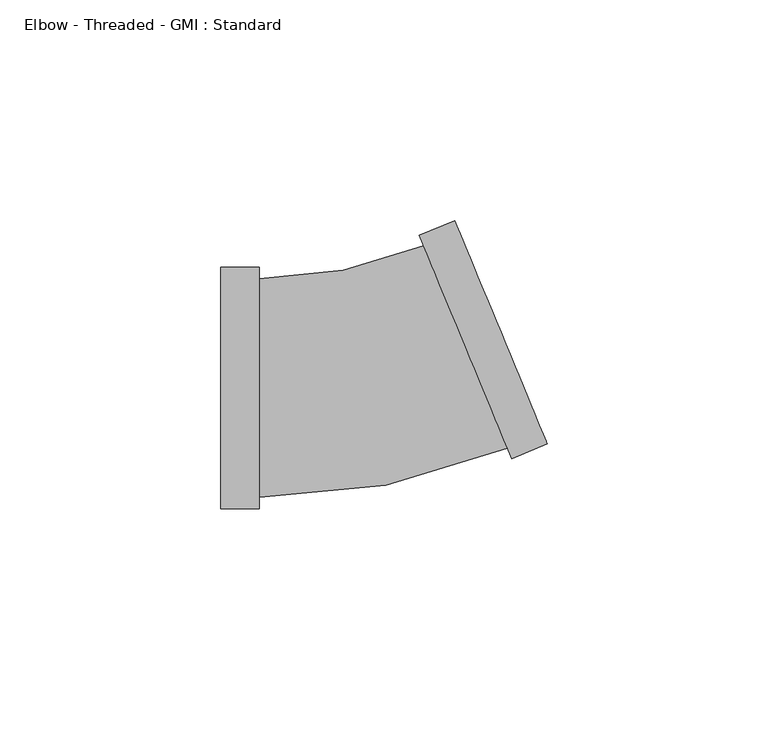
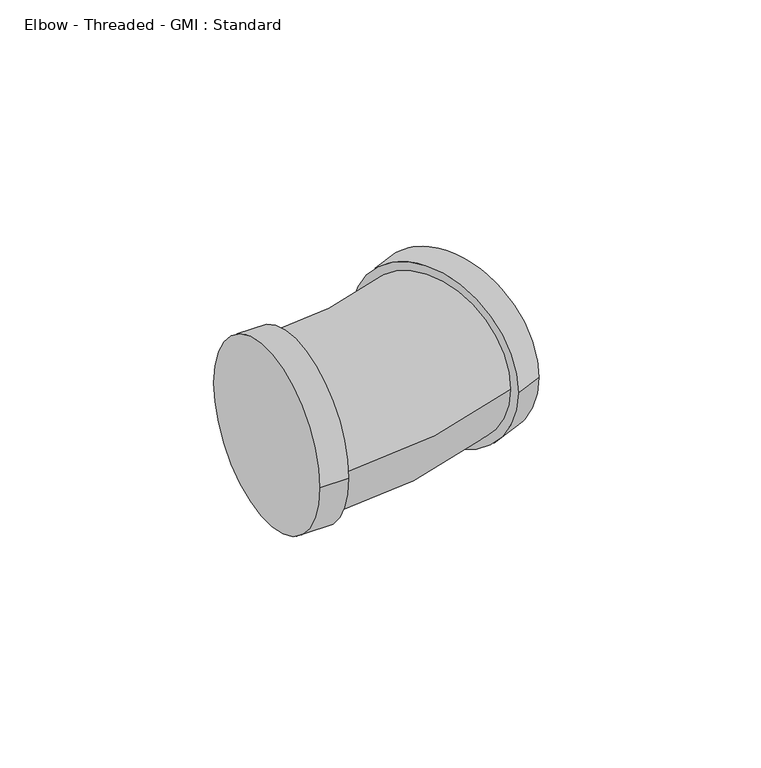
"""IFC4 building model written with IfcOpenShell, lengths in millimetres: pipe fitting geometry, Elbow - Threaded - GMI : Standard."""

import ifcopenshell
import ifcopenshell.guid

model = None  # the IFC model being written
_history = None  # IfcOwnerHistory: only IFC2X3 demands one
_inside = {}  # id of a spatial element -> (the spatial element, [elements in it])
_under = {}  # id of a project, library or spatial element -> (it, [spatial elements below it])
_declared = {}  # id of a project -> (the project, [libraries it declares])
_typed = {}  # id of a type object -> (the type object, [elements of that type])
_made_of = {}  # id of a material, layer set ... -> (it, [elements and type objects made of it])


def new_model(schema):
    """Start an empty IFC model of exactly this schema.

    Asked for "IFC4X3", IfcOpenShell would pick the latest addendum, in which some entities
    have other attributes; the version numbers below select the first issue.
    IFC2X3 requires an IfcOwnerHistory on every rooted entity: one is made here for all.
    """
    global model, _history
    if schema == "IFC4X3":
        model = ifcopenshell.file(schema_version=(4, 3, 0, 0))
    else:
        model = ifcopenshell.file(schema=schema)
    _inside.clear()
    _under.clear()
    _declared.clear()
    _typed.clear()
    _made_of.clear()
    _history = None
    if model.schema == "IFC2X3":
        org = make("IfcOrganization", Name="unknown")
        user = make(
            "IfcPersonAndOrganization",
            ThePerson=make("IfcPerson", FamilyName="unknown"),
            TheOrganization=org,
        )
        app = make(
            "IfcApplication",
            ApplicationDeveloper=org,
            Version="unknown",
            ApplicationFullName="unknown",
            ApplicationIdentifier="unknown",
        )
        _history = make(
            "IfcOwnerHistory",
            OwningUser=user,
            OwningApplication=app,
            ChangeAction="ADDED",
            CreationDate=0,
        )
    return model


def make(cls, **values):
    """One entity of the class cls with the attributes given. An attribute that is None is left unset."""
    return model.create_entity(
        cls, **{name: value for name, value in values.items() if value is not None}
    )


def rooted(cls, **values):
    """An entity with a GlobalId (a new one), such as an element, a storey or a relation."""
    return make(cls, GlobalId=ifcopenshell.guid.new(), OwnerHistory=_history, **values)


def si_unit(unit_type, name, prefix=None):
    """IfcSIUnit, for example si_unit("LENGTHUNIT", "METRE", prefix="MILLI")."""
    return make("IfcSIUnit", UnitType=unit_type, Prefix=prefix, Name=name)


def assignment(units):
    """IfcUnitAssignment: the units of a project."""
    return None if units is None else make("IfcUnitAssignment", Units=units)


def point(xyz):
    """IfcCartesianPoint."""
    return None if xyz is None else make("IfcCartesianPoint", Coordinates=xyz)


def direction(xyz):
    """IfcDirection."""
    return None if xyz is None else make("IfcDirection", DirectionRatios=xyz)


def frame(location, z_axis=None, x_axis=None):
    """IfcAxis2Placement3D, a coordinate frame: its origin and axes. An axis left out is left unset."""
    return make(
        "IfcAxis2Placement3D",
        Location=point(location),
        Axis=direction(z_axis),
        RefDirection=direction(x_axis),
    )


def origin():
    """The frame at (0, 0, 0) with its axes left unset."""
    return frame((0.0, 0.0, 0.0))


def place(relative_to, where):
    """IfcLocalPlacement: puts the frame where relative to a parent placement (None: the world)."""
    return make(
        "IfcLocalPlacement", PlacementRelTo=relative_to, RelativePlacement=where
    )


def context(
    kind, dimensions, precision=None, world=None, true_north=None, identifier=None
):
    """IfcGeometricRepresentationContext, for example the 3D "Model" context."""
    return make(
        "IfcGeometricRepresentationContext",
        ContextIdentifier=identifier,
        ContextType=kind,
        CoordinateSpaceDimension=dimensions,
        Precision=precision,
        WorldCoordinateSystem=world,
        TrueNorth=true_north,
    )


def project(units=None, contexts=None):
    """IfcProject with its units and contexts."""
    return rooted(
        "IfcProject",
        Name="project",
        RepresentationContexts=contexts,
        UnitsInContext=assignment(units),
    )


def spatial(cls, under=None, at=None, **own):
    """A site, building, storey or space (cls), placed at a placement, below another one or the project."""
    s = rooted(cls, ObjectPlacement=at, **own)
    if under is not None:
        _under.setdefault(under.id(), (under, []))[1].append(s)
    return s


def circle_curve(where, radius):
    """IfcCircle in the frame where."""
    return make("IfcCircle", Position=where, Radius=radius)


def ellipse_curve(where, semi_axis1, semi_axis2):
    """IfcEllipse in the frame where."""
    return make(
        "IfcEllipse", Position=where, SemiAxis1=semi_axis1, SemiAxis2=semi_axis2
    )


def trimmed(basis, trim1, trim2, sense, master):
    """IfcTrimmedCurve: the piece of a basis curve between two trims."""
    return make(
        "IfcTrimmedCurve",
        BasisCurve=basis,
        Trim1=trim1,
        Trim2=trim2,
        SenseAgreement=sense,
        MasterRepresentation=master,
    )


def shape(context_of_items, identifier, shape_type, items):
    """IfcShapeRepresentation: the items that make up one representation, for example the "Body"."""
    return make(
        "IfcShapeRepresentation",
        ContextOfItems=context_of_items,
        RepresentationIdentifier=identifier,
        RepresentationType=shape_type,
        Items=items,
    )


def source(mapping_origin, context_of_items, identifier, shape_type, items):
    """IfcRepresentationMap: a shape defined once, which mapped items show again and again."""
    return make(
        "IfcRepresentationMap",
        MappingOrigin=mapping_origin,
        MappedRepresentation=shape(context_of_items, identifier, shape_type, items),
    )


def transform(
    local_origin,
    x_axis=None,
    y_axis=None,
    z_axis=None,
    scale=None,
    scale2=None,
    scale3=None,
    uniform=True,
):
    """IfcCartesianTransformationOperator3D, or its non-uniform kind. x_axis, y_axis, z_axis: its Axis1, 2, 3."""
    if uniform:
        return make(
            "IfcCartesianTransformationOperator3D",
            Axis1=direction(x_axis),
            Axis2=direction(y_axis),
            LocalOrigin=point(local_origin),
            Scale=scale,
            Axis3=direction(z_axis),
        )
    return make(
        "IfcCartesianTransformationOperator3DnonUniform",
        Axis1=direction(x_axis),
        Axis2=direction(y_axis),
        LocalOrigin=point(local_origin),
        Scale=scale,
        Axis3=direction(z_axis),
        Scale2=scale2,
        Scale3=scale3,
    )


def mapped(mapping_source, mapping_target):
    """IfcMappedItem: shows the shape of a source again, moved by a transform."""
    return make(
        "IfcMappedItem", MappingSource=mapping_source, MappingTarget=mapping_target
    )


def made_of(thing, what):
    """Note that an element or type object is made of a material, layer set ...; save() writes the relation."""
    if what is not None:
        _made_of.setdefault(what.id(), (what, []))[1].append(thing)
    return thing


def element(
    cls,
    number,
    at=None,
    inside=None,
    cuts=None,
    type_object=None,
    material=None,
    context=None,
    identifier="Body",
    shape_type=None,
    held_by="IfcProductDefinitionShape",
    body=None,
    shapes=None,
    **own,
):
    """One element of the class cls, such as IfcWall. Its Tag is "e" and its number.

    at: its placement. inside: the storey or other place that contains it. cuts: it is an
    opening in that element (IfcRelVoidsElement). A single representation is given by context,
    identifier, shape_type and body (its items); several are given by shapes. held_by: the class
    of the entity that holds the representations. save() writes the other relations.
    """
    e = rooted(cls, Tag="e%d" % number, ObjectPlacement=at, **own)
    if body is not None:
        shapes = [shape(context, identifier, shape_type, body)]
    if shapes is not None:
        e.Representation = make(held_by, Representations=shapes)
    if inside is not None:
        _inside.setdefault(inside.id(), (inside, []))[1].append(e)
    if cuts is not None:
        rooted(
            "IfcRelVoidsElement", RelatingBuildingElement=cuts, RelatedOpeningElement=e
        )
    if type_object is not None:
        _typed.setdefault(type_object.id(), (type_object, []))[1].append(e)
    return made_of(e, material)


def aggregate(whole, parts):
    """IfcRelAggregates: a whole, such as a stair, and the parts it consists of."""
    return rooted("IfcRelAggregates", RelatingObject=whole, RelatedObjects=parts)


def save(model, path):
    """Write the relations noted so far, then the file.

    IfcRelAggregates (storeys below a building ...), IfcRelContainedInSpatialStructure (elements
    in a storey), IfcRelDefinesByType, IfcRelAssociatesMaterial and IfcRelDeclares: one each for
    every whole, place, type object, material and project.
    """
    for whole, parts in _under.values():
        aggregate(whole, parts)
    for where, things in _inside.values():
        rooted(
            "IfcRelContainedInSpatialStructure",
            RelatedElements=things,
            RelatingStructure=where,
        )
    for kind, things in _typed.values():
        rooted("IfcRelDefinesByType", RelatedObjects=things, RelatingType=kind)
    for what, things in _made_of.values():
        rooted("IfcRelAssociatesMaterial", RelatedObjects=things, RelatingMaterial=what)
    for by, libraries in _declared.values():
        rooted("IfcRelDeclares", RelatingContext=by, RelatedDefinitions=libraries)
    model.write(path)


def plane_surface(at):
    """IfcPlane: the flat surface through the origin of the frame at, square to its z axis."""
    return make("IfcPlane", Position=at)


def cylinder_surface(at, radius):
    """IfcCylindricalSurface: all points at the distance radius from the z axis of the frame at."""
    return make("IfcCylindricalSurface", Position=at, Radius=radius)


def revolved_surface(curve, axis_point, axis_direction):
    """IfcSurfaceOfRevolution: the curve turned about the line through axis_point along axis_direction."""
    return make(
        "IfcSurfaceOfRevolution",
        SweptCurve=make("IfcArbitraryOpenProfileDef", ProfileType="CURVE", Curve=curve),
        AxisPosition=make("IfcAxis1Placement", Location=point(axis_point), Axis=direction(axis_direction)),
    )


def advanced_brep(points, edges, surfaces, faces):
    """IfcAdvancedBrep: a solid bounded by faces that lie on surfaces and meet in shared edges.

    An edge is (start, end): straight between two places in points (the first is 0);
    or (start, end, curve); or (start, end, curve, False) where it runs against its curve.
    A face is (place in surfaces, loops), or (place, loops, False) where it looks against
    its surface's normal. A loop lists edges by number (the first is 1), with a minus sign
    where the edge is run from its end to its start. The first loop is the outer one.
    """
    corners = [point(p) for p in points]
    vertices = [make("IfcVertexPoint", VertexGeometry=c) for c in corners]
    made = []
    for start, end, *more in edges:
        made.append(
            make(
                "IfcEdgeCurve",
                EdgeStart=vertices[start],
                EdgeEnd=vertices[end],
                EdgeGeometry=more[0] if more else make("IfcPolyline", Points=[corners[start], corners[end]]),
                SameSense=more[1] if len(more) > 1 else True,
            )
        )
    hull = []
    for where, loops, *sense in faces:
        bounds = []
        for j, loop in enumerate(loops):
            ring = [make("IfcOrientedEdge", EdgeElement=made[abs(k) - 1], Orientation=k > 0) for k in loop]
            bounds.append(
                make(
                    "IfcFaceOuterBound" if j == 0 else "IfcFaceBound",
                    Bound=make("IfcEdgeLoop", EdgeList=ring),
                    Orientation=True,
                )
            )
        hull.append(make("IfcAdvancedFace", Bounds=bounds, FaceSurface=surfaces[where], SameSense=sense[0] if sense else True))
    return make("IfcAdvancedBrep", Outer=make("IfcClosedShell", CfsFaces=hull))


def elbow_threaded_gmi_standard_b1050e4a(model_context):
    return source(origin(), model_context, "Body", "AdvancedBrep", [
        advanced_brep(
        [(-33.0, -27.35, 0.0), (-33.0, 27.35, 0.0), (-24.3, -27.35, 0.0), (-24.3, 27.35, 0.0), (-24.3, -24.78, 0.0), (-24.3, 24.78, 0.0), (32.9166645, -15.9688978, 0.0), (11.9838808, 34.5673126, 0.0), (12.9673772, 32.1929422, 0.0), (31.9331681, -13.5945274, 0.0), (40.9544164, -12.6395519, 0.0), (20.0216327, 37.8966585, 0.0)],
        [
            (0, 1, circle_curve(frame((-33.0, 0.0, 0.0), z_axis=(-1.0, 0.0, 0.0), x_axis=(0.0, 1.0, 0.0)), 27.35)),
            (1, 0, circle_curve(frame((-33.0, 0.0, 0.0), z_axis=(-1.0, 0.0, 0.0), x_axis=(0.0, 1.0, 0.0)), 27.35)),
            (2, 3, circle_curve(frame((-24.3, 0.0, 0.0), z_axis=(1.0, 0.0, 0.0), x_axis=(0.0, 1.0, 0.0)), 27.35)),
            (3, 2, circle_curve(frame((-24.3, 0.0, 0.0), z_axis=(1.0, 0.0, 0.0), x_axis=(0.0, 1.0, 0.0)), 27.35)),
            (4, 5, circle_curve(frame((-24.3, 0.0, 0.0), z_axis=(-1.0, 0.0, 0.0), x_axis=(0.0, 1.0, 0.0)), 24.78)),
            (5, 4, circle_curve(frame((-24.3, 0.0, 0.0), z_axis=(-1.0, 0.0, 0.0), x_axis=(0.0, 1.0, 0.0)), 24.78)),
            (0, 2),
            (3, 1),
            (6, 7, circle_curve(frame((22.4502726, 9.2992074, 0.0), z_axis=(-0.923879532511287, -0.3826834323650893, 0.0), x_axis=(-0.3826834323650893, 0.923879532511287, 0.0)), 27.35)),
            (7, 6, circle_curve(frame((22.4502726, 9.2992074, 0.0), z_axis=(-0.923879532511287, -0.3826834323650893, 0.0), x_axis=(-0.3826834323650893, 0.923879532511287, 0.0)), 27.35)),
            (8, 9, circle_curve(frame((22.4502726, 9.2992074, 0.0), z_axis=(0.9238795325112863, 0.3826834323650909, 0.0), x_axis=(-0.3826834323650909, 0.9238795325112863, 0.0)), 24.78)),
            (9, 8, circle_curve(frame((22.4502726, 9.2992074, 0.0), z_axis=(0.9238795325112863, 0.3826834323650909, 0.0), x_axis=(-0.3826834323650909, 0.9238795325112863, 0.0)), 24.78)),
            (10, 11, circle_curve(frame((30.4880246, 12.6285533, 0.0), z_axis=(0.923879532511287, 0.3826834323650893, 0.0), x_axis=(-0.3826834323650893, 0.923879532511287, 0.0)), 27.35)),
            (11, 10, circle_curve(frame((30.4880246, 12.6285533, 0.0), z_axis=(0.923879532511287, 0.3826834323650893, 0.0), x_axis=(-0.3826834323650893, 0.923879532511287, 0.0)), 27.35)),
            (6, 10),
            (11, 7),
            (8, 5, circle_curve(frame((-24.3, 122.1643497, 0.0), z_axis=(0.0, 0.0, -1.0), x_axis=(0.0, -1.0, 0.0)), 97.3843497)),
            (4, 9, circle_curve(frame((-24.3, 122.1643497, 0.0), z_axis=(0.0, 0.0, 1.0), x_axis=(0.0, -1.0, 0.0)), 146.9443497)),
        ],
        [
            plane_surface(frame((-33.0, 0.0, 0.0), z_axis=(-1.0, 0.0, 0.0), x_axis=(0.0, 0.0, 1.0))),
            plane_surface(frame((-24.3, 0.0, 0.0), z_axis=(1.0, 0.0, 0.0), x_axis=(0.0, 0.0, 1.0))),
            cylinder_surface(frame((-33.0, 0.0, 0.0), z_axis=(-1.0, 0.0, 0.0), x_axis=(0.0, 1.0, 0.0)), 27.35),
            plane_surface(frame((22.4502726, 9.2992074, 0.0), z_axis=(-0.923879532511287, -0.3826834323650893, 0.0), x_axis=(0.0, 0.0, 1.0))),
            plane_surface(frame((30.4880246, 12.6285533, 0.0), z_axis=(0.923879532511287, 0.3826834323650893, 0.0), x_axis=(0.0, 0.0, 1.0))),
            cylinder_surface(frame((22.4502726, 9.2992074, 0.0), z_axis=(-0.923879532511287, -0.3826834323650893, 0.0), x_axis=(-0.3826834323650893, 0.923879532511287, 0.0)), 27.35),
            revolved_surface(trimmed(ellipse_curve(frame((-24.3, 0.0, 0.0), z_axis=(-1.0, 0.0, 0.0), x_axis=(0.0, 1.0, 0.0)), 24.78, 24.78), [point((-24.3, -24.78, 0.0))], [point((-24.3, 24.78, 0.0))], True, "CARTESIAN"), (-24.3, 122.1643497, 0.0), (0.0, 0.0, 1.0)),
            revolved_surface(trimmed(ellipse_curve(frame((-24.3, 0.0, 0.0), z_axis=(-1.0, 0.0, 0.0), x_axis=(0.0, 1.0, 0.0)), 24.78, 24.78), [point((-24.3, 24.78, 0.0))], [point((-24.3, -24.78, 0.0))], True, "CARTESIAN"), (-24.3, 122.1643497, 0.0), (0.0, 0.0, 1.0)),
        ],
        [
            (0, [[1, 2]]),
            (1, [[3, 4], [5, 6]]),
            (2, [[-1, 7, -4, 8]]),
            (2, [[-2, -8, -3, -7]]),
            (3, [[9, 10], [11, 12]]),
            (4, [[13, 14]]),
            (5, [[-9, 15, -14, 16]]),
            (5, [[-10, -16, -13, -15]]),
            (6, [[17, -5, 18, -11]]),
            (7, [[-17, -12, -18, -6]]),
        ],
    ),
    ])


if __name__ == "__main__":
    model = new_model("IFC4")
    model_context = context("Model", 3, world=origin())
    ifc_project = project(units=[si_unit("LENGTHUNIT", "METRE", prefix="MILLI")], contexts=[model_context])
    site = spatial("IfcSite", under=ifc_project)
    building = spatial("IfcBuilding", under=site)
    placement = place(None, origin())
    elbow_threaded_gmi_standard_shape = elbow_threaded_gmi_standard_b1050e4a(model_context)
    element("IfcPipeFitting", 1, ObjectType="Elbow - Threaded - GMI : Standard", at=placement, inside=building, context=model_context, shape_type="MappedRepresentation", body=[
        mapped(elbow_threaded_gmi_standard_shape, transform((0.0, 0.0, 0.0), x_axis=(1.0, 0.0, 0.0), y_axis=(0.0, 1.0, 0.0), z_axis=(0.0, 0.0, 1.0))),
    ])
    save(model, "model.ifc")
